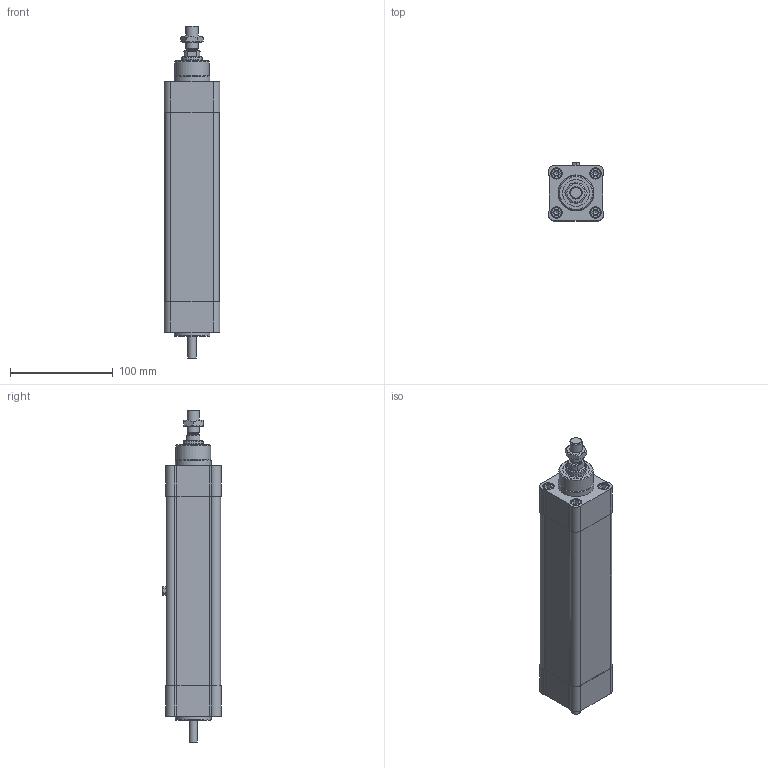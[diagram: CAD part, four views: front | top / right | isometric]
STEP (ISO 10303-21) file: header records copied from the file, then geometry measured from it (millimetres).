
FILE_DESCRIPTION(/* description */ ('STEP AP203'),/* implementation_level */ '2;1');
FILE_NAME(/* name */ 'PNCE 40 BS 1605 100 S(0)',/* time_stamp */ '2025-01-22T11:34:31+01:00',/* author */ ('License CC BY-ND 4.0'),/* organization */ ('CADENAS'),/* preprocessor_version */ 'ST-DEVELOPER v19.3',/* originating_system */ 'PARTsolutions',/* authorisation */ ' ');
FILE_SCHEMA (('CONFIG_CONTROL_DESIGN'));
Length unit declared in the file: millimetre
Products named in the file (6): PNCE 40 BS 1605 100 S(0); PNCE 40_drive cap; PNCE 40 100 S(0)_cylinder profil; PNCE 40_front cap; PNCE 40 100 S 0_piston rod; PNCE 40_nut
Assembly tree (5 placements, depth 2):
  PNCE 40 BS 1605 100 S(0)
    PNCE 40_drive cap
    PNCE 40 100 S(0)_cylinder profil
    PNCE 40_front cap
    PNCE 40 100 S 0_piston rod
    PNCE 40_nut
Bounding box: 53.97 x 56.5 x 323 mm (x, y, z)
Volume: 574944.4 mm3; surface area: 146751.1 mm2
Topology: 5 solids, 5 shells, 250 faces, 544 edges, 354 vertices
Faces by surface type: plane 136, cylinder 84, cone 30
Full cylindrical faces by diameter (mm): 4.917 x8, 5 x12, 5.3 x1, 6.5 x4, 8 x1, 8.566 x1, 10 x8, 10.4 x1, 10.647 x1, 11 x8, 12 x1, 19.9 x1, 20 x2, 22 x1, 26 x1, 34 x1, 35 x2, 39 x1, 40 x3
Entity records: 8005 total; most frequent: DIRECTION 1126, CARTESIAN_POINT 1121, ORIENTED_EDGE 884, AXIS2_PLACEMENT_3D 444, EDGE_CURVE 442, FACE_BOUND 409, EDGE_LOOP 400, VERTEX_POINT 347
